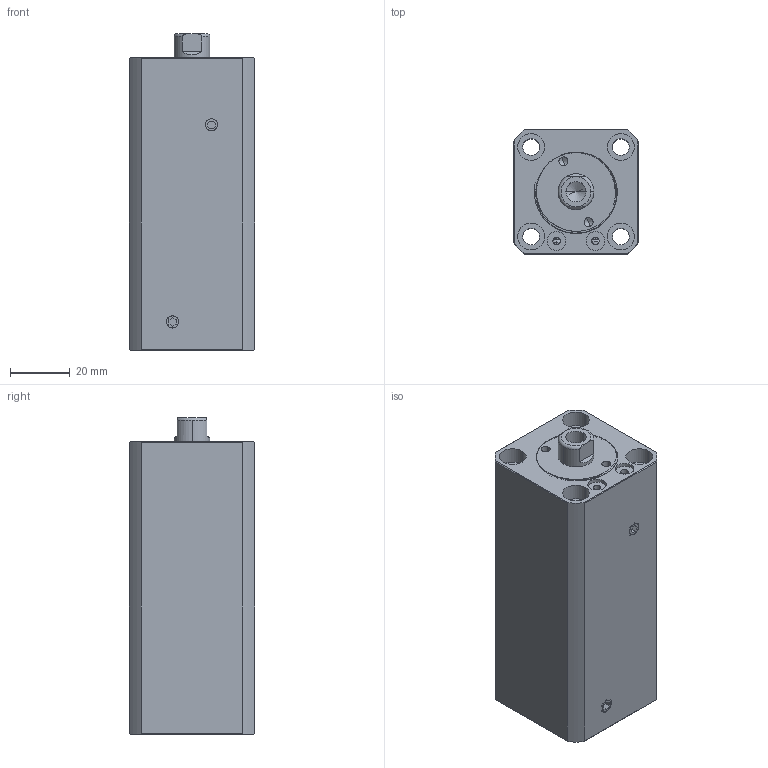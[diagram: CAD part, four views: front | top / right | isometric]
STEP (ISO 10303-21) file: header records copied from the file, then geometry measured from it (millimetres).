
FILE_DESCRIPTION (( 'STEP AP214' ), '1' );
FILE_NAME ('chtb-sdma20x55n_asm.STEP', '2018-05-18T06:07:23', ( '' ), ( '' ), 'SwSTEP 2.0', 'SolidWorks 2016', '' );
FILE_SCHEMA (( 'AUTOMOTIVE_DESIGN' ));
Length unit declared in the file: millimetre
Products named in the file (5): socket set screw flat point_iso_ISO 4026 - M5 x 5-N; QG_3; CHTB-SDMA20X55NHSG; CHTB-SDMA20X55NBT; chtb-sdma20x55n_asm
Assembly tree (5 placements, depth 2):
  chtb-sdma20x55n_asm
    CHTB-SDMA20X55NBT
    CHTB-SDMA20X55NHSG
    QG_3
    socket set screw flat point_iso_ISO 4026 - M5 x 5-N  x2
Bounding box: 42 x 42 x 106 mm (x, y, z)
Volume: 145649.6 mm3; surface area: 43389.9 mm2
Topology: 5 solids, 5 shells, 232 faces, 602 edges, 396 vertices
Faces by surface type: cylinder 111, plane 61, torus 25, bspline 21, cone 14
Entity records: 12042 total; most frequent: CARTESIAN_POINT 6742, ORIENTED_EDGE 1128, DIRECTION 1000, EDGE_CURVE 564, AXIS2_PLACEMENT_3D 415, VERTEX_POINT 376, EDGE_LOOP 256, FACE_OUTER_BOUND 217
